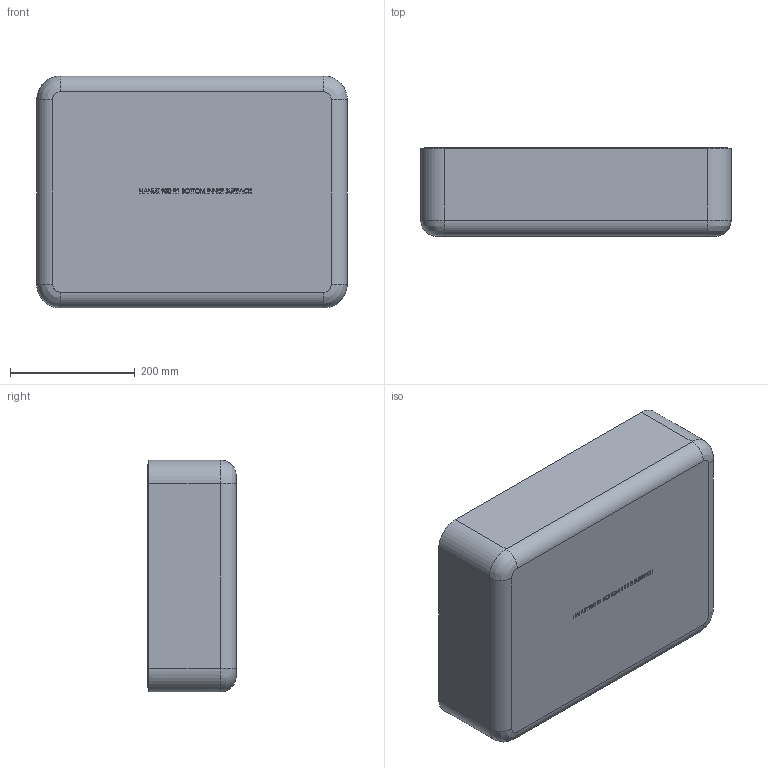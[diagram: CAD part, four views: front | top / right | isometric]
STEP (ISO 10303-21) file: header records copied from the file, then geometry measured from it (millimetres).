
FILE_DESCRIPTION (( 'STEP AP214' ), '1' );
FILE_NAME ('930_R1_Btm_INNER_SURFACE_STEP.STEP', '2020-03-17T20:54:59', ( '' ), ( '' ), 'SwSTEP 2.0', 'SolidWorks 2018', '' );
FILE_SCHEMA (( 'AUTOMOTIVE_DESIGN' ));
Length unit declared in the file: inch
Products named in the file (1): 930_R1_Btm_INNER_SURFACE_STEP
Bounding box: 497.41 x 141.58 x 371.68 mm (x, y, z)
Volume: 6408832.9 mm3; surface area: 764951.8 mm2
Topology: 1 solids, 1 shells, 1096 faces, 2657 edges, 1664 vertices
Faces by surface type: bspline 436, plane 372, cylinder 134, torus 112, cone 42
Entity records: 63323 total; most frequent: CARTESIAN_POINT 40554, ORIENTED_EDGE 5302, DIRECTION 3826, EDGE_CURVE 2651, VERTEX_POINT 1664, AXIS2_PLACEMENT_3D 1379, EDGE_LOOP 1203, ADVANCED_FACE 1096
